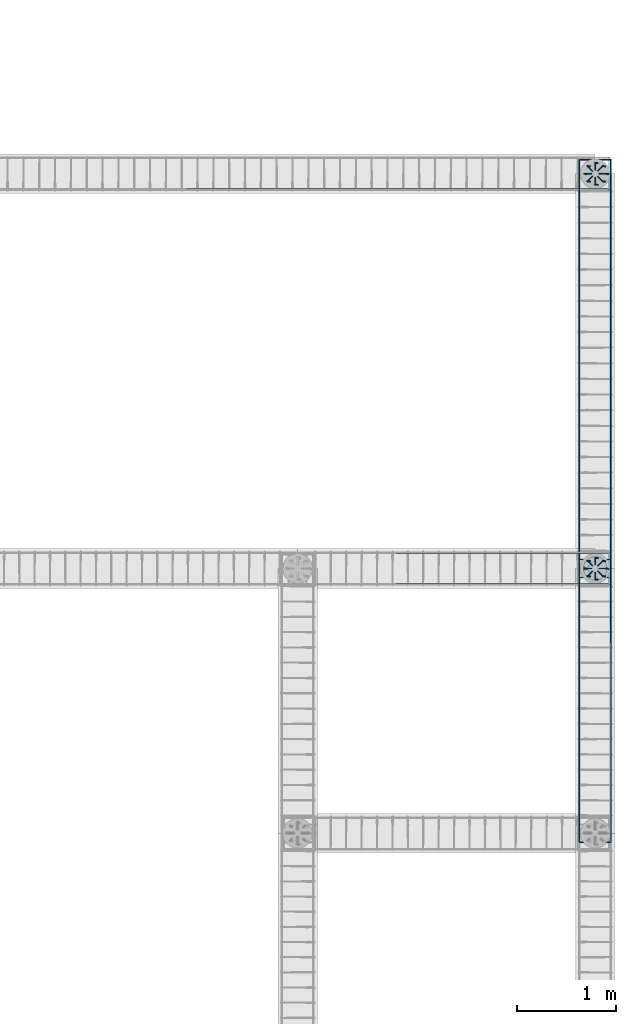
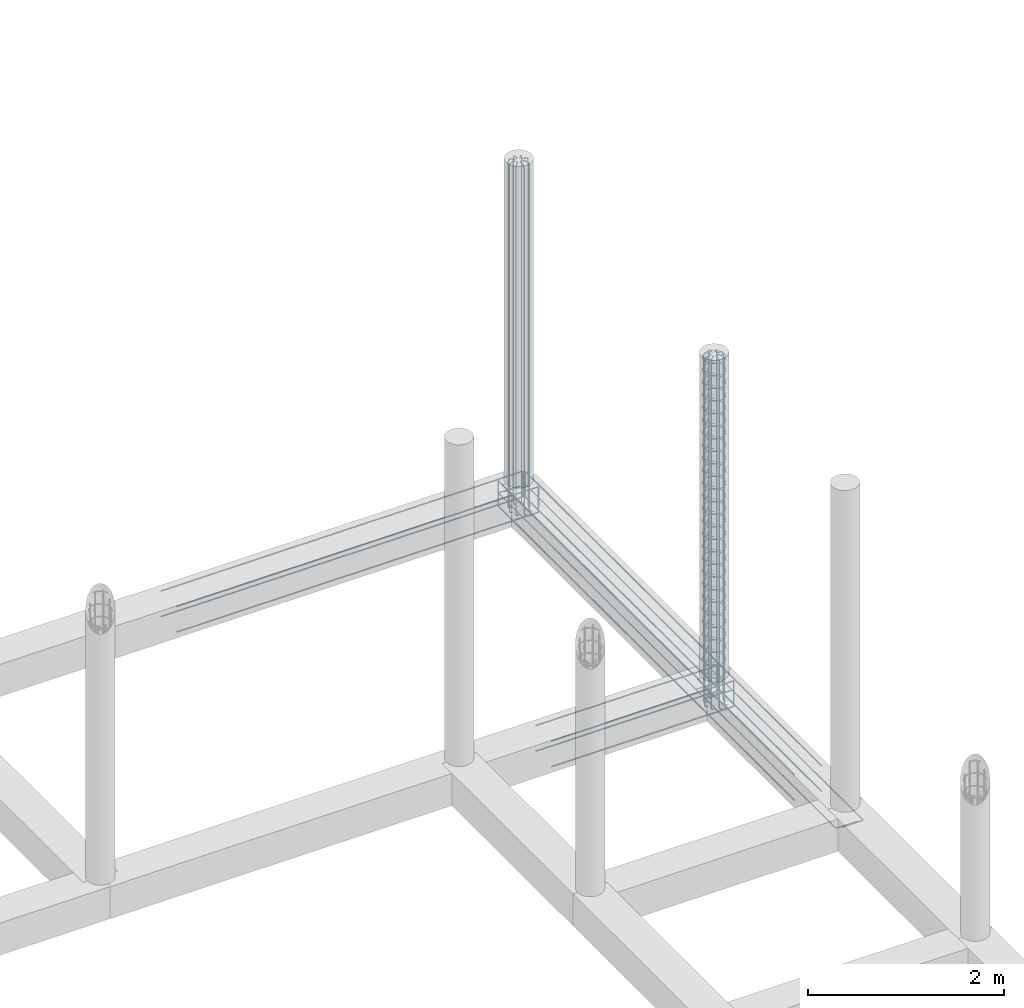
# One storey, part 14 of 20: 11 reinforcing bars.
"""IFC4 building model written with IfcOpenShell, lengths in metres."""

from ifc_helpers import new_model, entity, si_unit, origin_with_axes, place, context, project, spatial, source, transform, mapped, element, save


model = new_model("IFC4")

# Units and contexts
model_context = context("Model", 3, precision=1e-05, world=origin_with_axes())
ifc_project = project(units=[si_unit("LENGTHUNIT", "METRE"), si_unit("AREAUNIT", "SQUARE_METRE"), si_unit("VOLUMEUNIT", "CUBIC_METRE"), si_unit("MASSUNIT", "GRAM", prefix="KILO"), si_unit("TIMEUNIT", "SECOND"), si_unit("PLANEANGLEUNIT", "RADIAN"), si_unit("SOLIDANGLEUNIT", "STERADIAN"), si_unit("THERMODYNAMICTEMPERATUREUNIT", "DEGREE_CELSIUS")], contexts=[model_context])

# Site, building, storey
placement_1 = place(None, origin_with_axes())
site = spatial("IfcSite", under=ifc_project, at=placement_1, Name="Italia", CompositionType="ELEMENT")
building = spatial("IfcBuilding", under=site, at=placement_1, Name="Tettoia", CompositionType="ELEMENT")
storey = spatial("IfcBuildingStorey", under=building, at=placement_1, Name="Storey 0", CompositionType="ELEMENT", Elevation=0.0)

# Reinforcing bars
shared_shape_1 = source(origin_with_axes(), model_context, "Body", "AdvancedSweptSolid", [
    entity("IfcSweptDiskSolid", entity("IfcIndexedPolyCurve", entity("IfcCartesianPointList3D", [[11.211, 13.946, -0.375], [11.1971, 13.9479, -0.375], [11.191, 13.9487, -0.373761], [11.1857, 13.9494, -0.370231], [11.1822, 13.9498, -0.364949], [11.181, 13.95, -0.358718], [11.181, 13.95, 0.5725]]), [entity("IfcLineIndex", [1, 2]), entity("IfcLineIndex", [2, 3]), entity("IfcLineIndex", [3, 4]), entity("IfcLineIndex", [4, 5]), entity("IfcLineIndex", [5, 6]), entity("IfcLineIndex", [6, 7])], False), 0.007),
])
placement_2 = place(placement_1, origin_with_axes())
reinforcing_bar_1_placement = place(placement_2, origin_with_axes())
element("IfcReinforcingBar", 1, at=reinforcing_bar_1_placement, inside=storey, BarLength=0.97063, CrossSectionArea=0.00015394, NominalDiameter=0.014, context=model_context, shape_type="MappedRepresentation", body=[
    mapped(shared_shape_1, transform((0.186075, -0.0770731, 0.0), x_axis=(1.0, 0.0, 0.0), y_axis=(0.0, 1.0, 0.0), z_axis=(0.0, 0.0, 1.0), scale=1.0)),
    mapped(shared_shape_1, transform((0.217876, 0.000102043, 0.0), x_axis=(1.0, 0.0, 0.0), y_axis=(0.0, 1.0, 0.0), z_axis=(0.0, 0.0, 1.0), scale=1.0)),
    mapped(shared_shape_1, transform((0.0320501, -0.0771723, 0.0), x_axis=(1.0, 0.0, 0.0), y_axis=(0.0, 1.0, 0.0), z_axis=(0.0, 0.0, 1.0), scale=1.0)),
    mapped(shared_shape_1, transform((0.109, -0.108998, 0.0), x_axis=(1.0, 0.0, 0.0), y_axis=(0.0, 1.0, 0.0), z_axis=(0.0, 0.0, 1.0), scale=1.0)),
    mapped(shared_shape_1, transform((0.0319262, 0.077076, -1.53184e-05), x_axis=(1.0, 0.0, 0.0), y_axis=(0.0, 1.0, 0.0), z_axis=(0.0, 0.0, 1.0), scale=1.0)),
    mapped(shared_shape_1, transform((0.0, 0.0, 0.0), x_axis=(1.0, 0.0, 0.0), y_axis=(0.0, 1.0, 0.0), z_axis=(0.0, 0.0, 1.0), scale=1.0)),
    mapped(shared_shape_1, transform((0.186075, 0.077076, -1.73151e-05), x_axis=(1.0, 0.0, 0.0), y_axis=(0.0, 1.0, 0.0), z_axis=(0.0, 0.0, 1.0), scale=1.0)),
    mapped(shared_shape_1, transform((0.109124, 0.108902, -1.09673e-05), x_axis=(1.0, 0.0, 0.0), y_axis=(0.0, 1.0, 0.0), z_axis=(0.0, 0.0, 1.0), scale=1.0)),
])
shared_shape_2 = source(origin_with_axes(), model_context, "Body", "AdvancedSweptSolid", [
    entity("IfcSweptDiskSolid", entity("IfcIndexedPolyCurve", entity("IfcCartesianPointList3D", [[11.181, 13.95, 0.0], [11.181, 13.95, 3.94], [11.1837, 13.95, 3.95339], [11.1913, 13.95, 3.96475], [11.2026, 13.95, 3.97234], [11.216, 13.95, 3.975], [11.256, 13.95, 3.975]]), [entity("IfcLineIndex", [1, 2]), entity("IfcLineIndex", [2, 3]), entity("IfcLineIndex", [3, 4]), entity("IfcLineIndex", [4, 5]), entity("IfcLineIndex", [5, 6]), entity("IfcLineIndex", [6, 7])], False), 0.007),
])
reinforcing_bar_2_placement = place(placement_2, origin_with_axes())
element("IfcReinforcingBar", 2, at=reinforcing_bar_2_placement, inside=storey, BarLength=4.03463, CrossSectionArea=0.00015394, NominalDiameter=0.014, context=model_context, shape_type="MappedRepresentation", body=[
    mapped(shared_shape_2, transform((29.1374, 15.8309, 0.0), x_axis=(-0.707107, 0.707107, 0.0), y_axis=(-0.707107, -0.707107, 0.0), z_axis=(0.0, 0.0, 1.0), scale=1.0)),
    mapped(shared_shape_2, transform((22.58, 27.9, 0.0), x_axis=(-1.0, 0.0, 0.0), y_axis=(0.0, -1.0, 0.0), z_axis=(0.0, 0.0, 1.0), scale=1.0)),
    mapped(shared_shape_2, transform((13.1709, -3.89737, 0.0), x_axis=(0.707107, 0.707107, 0.0), y_axis=(-0.707107, 0.707107, 0.0), z_axis=(0.0, 0.0, 1.0), scale=1.0)),
    mapped(shared_shape_2, transform((25.24, 2.66, 0.0), x_axis=(0.0, 1.0, 0.0), y_axis=(-1.0, 0.0, 0.0), z_axis=(0.0, 0.0, 1.0), scale=1.0)),
    mapped(shared_shape_2, transform((-6.55737, 12.0691, 0.0), x_axis=(0.707107, -0.707107, 0.0), y_axis=(0.707107, 0.707107, 0.0), z_axis=(0.0, 0.0, 1.0), scale=1.0)),
    mapped(shared_shape_2, transform((0.0, 0.0, 0.0), x_axis=(1.0, 0.0, 0.0), y_axis=(0.0, 1.0, 0.0), z_axis=(0.0, 0.0, 1.0), scale=1.0)),
    mapped(shared_shape_2, transform((9.4091, 31.7974, 0.0), x_axis=(-0.707107, -0.707107, 0.0), y_axis=(0.707107, -0.707107, 0.0), z_axis=(0.0, 0.0, 1.0), scale=1.0)),
    mapped(shared_shape_2, transform((-2.66, 25.24, 0.0), x_axis=(0.0, -1.0, 0.0), y_axis=(1.0, 0.0, 0.0), z_axis=(0.0, 0.0, 1.0), scale=1.0)),
])
shared_shape_3 = source(origin_with_axes(), model_context, "Body", "AdvancedSweptSolid", [
    entity("IfcSweptDiskSolid", entity("IfcIndexedPolyCurve", entity("IfcCartesianPointList3D", [[11.211, 9.96605, -0.375], [11.1971, 9.96787, -0.375], [11.191, 9.96869, -0.373761], [11.1857, 9.96938, -0.370231], [11.1822, 9.96984, -0.364949], [11.181, 9.97, -0.358718], [11.181, 9.97, 0.5725]]), [entity("IfcLineIndex", [1, 2]), entity("IfcLineIndex", [2, 3]), entity("IfcLineIndex", [3, 4]), entity("IfcLineIndex", [4, 5]), entity("IfcLineIndex", [5, 6]), entity("IfcLineIndex", [6, 7])], False), 0.007),
])
reinforcing_bar_3_placement = place(placement_2, origin_with_axes())
element("IfcReinforcingBar", 3, at=reinforcing_bar_3_placement, inside=storey, BarLength=0.97063, CrossSectionArea=0.00015394, NominalDiameter=0.014, context=model_context, shape_type="MappedRepresentation", body=[
    mapped(shared_shape_3, transform((0.186075, -0.0770741, 0.0), x_axis=(1.0, 0.0, 0.0), y_axis=(0.0, 1.0, 0.0), z_axis=(0.0, 0.0, 1.0), scale=1.0)),
    mapped(shared_shape_3, transform((0.218, 0.0, 0.0), x_axis=(1.0, 0.0, 0.0), y_axis=(0.0, 1.0, 0.0), z_axis=(0.0, 0.0, 1.0), scale=1.0)),
    mapped(shared_shape_3, transform((0.0320158, -0.0771732, 0.0), x_axis=(1.0, 0.0, 0.0), y_axis=(0.0, 1.0, 0.0), z_axis=(0.0, 0.0, 1.0), scale=1.0)),
    mapped(shared_shape_3, transform((0.109, -0.108999, 0.0), x_axis=(1.0, 0.0, 0.0), y_axis=(0.0, 1.0, 0.0), z_axis=(0.0, 0.0, 1.0), scale=1.0)),
    mapped(shared_shape_3, transform((0.0319262, 0.077075, -1.13547e-05), x_axis=(1.0, 0.0, 0.0), y_axis=(0.0, 1.0, 0.0), z_axis=(0.0, 0.0, 1.0), scale=1.0)),
    mapped(shared_shape_3, transform((0.0, 0.0, 0.0), x_axis=(1.0, 0.0, 0.0), y_axis=(0.0, 1.0, 0.0), z_axis=(0.0, 0.0, 1.0), scale=1.0)),
    mapped(shared_shape_3, transform((0.186075, 0.077075, -1.28448e-05), x_axis=(1.0, 0.0, 0.0), y_axis=(0.0, 1.0, 0.0), z_axis=(0.0, 0.0, 1.0), scale=1.0)),
    mapped(shared_shape_3, transform((0.10909, 0.108901, 0.0), x_axis=(1.0, 0.0, 0.0), y_axis=(0.0, 1.0, 0.0), z_axis=(0.0, 0.0, 1.0), scale=1.0)),
])
shared_shape_4 = source(origin_with_axes(), model_context, "Body", "AdvancedSweptSolid", [
    entity("IfcSweptDiskSolid", entity("IfcIndexedPolyCurve", entity("IfcCartesianPointList3D", [[11.181, 9.97, 0.0], [11.181, 9.97, 3.94], [11.1837, 9.97, 3.95339], [11.1913, 9.97, 3.96475], [11.2026, 9.97, 3.97234], [11.216, 9.97, 3.975], [11.256, 9.97, 3.975]]), [entity("IfcLineIndex", [1, 2]), entity("IfcLineIndex", [2, 3]), entity("IfcLineIndex", [3, 4]), entity("IfcLineIndex", [4, 5]), entity("IfcLineIndex", [5, 6]), entity("IfcLineIndex", [6, 7])], False), 0.007),
])
reinforcing_bar_4_placement = place(placement_2, origin_with_axes())
element("IfcReinforcingBar", 4, at=reinforcing_bar_4_placement, inside=storey, BarLength=4.03463, CrossSectionArea=0.00015394, NominalDiameter=0.014, context=model_context, shape_type="MappedRepresentation", body=[
    mapped(shared_shape_4, transform((26.3231, 9.03662, 0.0), x_axis=(-0.707107, 0.707107, 0.0), y_axis=(-0.707107, -0.707107, 0.0), z_axis=(0.0, 0.0, 1.0), scale=1.0)),
    mapped(shared_shape_4, transform((22.58, 19.94, 0.0), x_axis=(-1.0, 0.0, 0.0), y_axis=(0.0, -1.0, 0.0), z_axis=(0.0, 0.0, 1.0), scale=1.0)),
    mapped(shared_shape_4, transform((10.3566, -5.06309, 0.0), x_axis=(0.707107, 0.707107, 0.0), y_axis=(-0.707107, 0.707107, 0.0), z_axis=(0.0, 0.0, 1.0), scale=1.0)),
    mapped(shared_shape_4, transform((21.26, -1.32, 0.0), x_axis=(0.0, 1.0, 0.0), y_axis=(-1.0, 0.0, 0.0), z_axis=(0.0, 0.0, 1.0), scale=1.0)),
    mapped(shared_shape_4, transform((-3.74309, 10.9034, 0.0), x_axis=(0.707107, -0.707107, 0.0), y_axis=(0.707107, 0.707107, 0.0), z_axis=(0.0, 0.0, 1.0), scale=1.0)),
    mapped(shared_shape_4, transform((0.0, 0.0, 0.0), x_axis=(1.0, 0.0, 0.0), y_axis=(0.0, 1.0, 0.0), z_axis=(0.0, 0.0, 1.0), scale=1.0)),
    mapped(shared_shape_4, transform((12.2234, 25.0031, 0.0), x_axis=(-0.707107, -0.707107, 0.0), y_axis=(0.707107, -0.707107, 0.0), z_axis=(0.0, 0.0, 1.0), scale=1.0)),
    mapped(shared_shape_4, transform((1.32, 21.26, 0.0), x_axis=(0.0, -1.0, 0.0), y_axis=(1.0, 0.0, 0.0), z_axis=(0.0, 0.0, 1.0), scale=1.0)),
])
shared_shape_5 = source(origin_with_axes(), model_context, "Body", "AdvancedSweptSolid", [
    entity("IfcSweptDiskSolid", entity("IfcIndexedPolyCurve", entity("IfcCartesianPointList3D", [[11.2591, 9.90856, 0.029], [11.1957, 9.98046, 0.029], [11.1888, 9.98383, 0.029], [11.182, 9.98426, 0.029], [11.1781, 9.98374, 0.029], [11.1747, 9.98178, 0.029], [11.1724, 9.97867, 0.029], [11.1714, 9.9749, 0.029], [11.1711, 9.97071, 0.029], [11.1711, 9.96929, 0.029], [11.1725, 9.95218, 0.029], [11.1727, 9.95063, 0.029], [11.1767, 9.93401, 0.029], [11.1772, 9.93252, 0.029], [11.1837, 9.91673, 0.029], [11.1844, 9.91533, 0.029], [11.1934, 9.90076, 0.029], [11.1943, 9.89949, 0.029], [11.2054, 9.88649, 0.029], [11.2065, 9.88538, 0.029], [11.2195, 9.87429, 0.029], [11.2208, 9.87336, 0.029], [11.2353, 9.86443, 0.029], [11.2367, 9.86372, 0.029], [11.2525, 9.85718, 0.029], [11.254, 9.8567, 0.029], [11.2706, 9.85271, 0.029], [11.2722, 9.85246, 0.029], [11.2892, 9.85112, 0.029], [11.2908, 9.85112, 0.029], [11.3078, 9.85246, 0.029], [11.3094, 9.85271, 0.029], [11.326, 9.8567, 0.029], [11.3275, 9.85718, 0.029], [11.3433, 9.86372, 0.029], [11.3447, 9.86443, 0.029], [11.3592, 9.87336, 0.029], [11.3605, 9.87429, 0.029], [11.3735, 9.88538, 0.029], [11.3746, 9.88649, 0.029], [11.3857, 9.89949, 0.029], [11.3866, 9.90076, 0.029], [11.3956, 9.91533, 0.029], [11.3963, 9.91673, 0.029], [11.4028, 9.93252, 0.029], [11.4033, 9.93401, 0.029], [11.4073, 9.95063, 0.029], [11.4075, 9.95218, 0.029], [11.4089, 9.96922, 0.029], [11.4089, 9.97079, 0.029], [11.4075, 9.98782, 0.029], [11.4073, 9.98937, 0.029], [11.4033, 10.006, 0.029], [11.4028, 10.0075, 0.029], [11.3963, 10.0233, 0.029], [11.3956, 10.0247, 0.029], [11.3866, 10.0392, 0.029], [11.3857, 10.0405, 0.029], [11.3746, 10.0535, 0.029], [11.3735, 10.0546, 0.029], [11.3605, 10.0657, 0.029], [11.3592, 10.0666, 0.029], [11.3447, 10.0756, 0.029], [11.3433, 10.0763, 0.029], [11.3275, 10.0828, 0.029], [11.326, 10.0833, 0.029], [11.3094, 10.0873, 0.029], [11.3078, 10.0875, 0.029], [11.2908, 10.0889, 0.029], [11.2892, 10.0889, 0.029], [11.2722, 10.0875, 0.029], [11.2706, 10.0873, 0.029], [11.254, 10.0833, 0.029], [11.2525, 10.0828, 0.029], [11.2367, 10.0763, 0.029], [11.2353, 10.0756, 0.029], [11.2208, 10.0666, 0.029], [11.2195, 10.0657, 0.029], [11.2065, 10.0546, 0.029], [11.2054, 10.0535, 0.029], [11.1943, 10.0405, 0.029], [11.1934, 10.0392, 0.029], [11.1844, 10.0247, 0.029], [11.1837, 10.0233, 0.029], [11.1772, 10.0075, 0.029], [11.1767, 10.006, 0.029], [11.1727, 9.98937, 0.029], [11.1725, 9.98782, 0.029], [11.1711, 9.97071, 0.029], [11.1711, 9.96929, 0.029], [11.1714, 9.9651, 0.029], [11.1724, 9.96133, 0.029], [11.1747, 9.95823, 0.029], [11.1781, 9.95626, 0.029], [11.182, 9.95574, 0.029], [11.1888, 9.95617, 0.029], [11.1957, 9.95954, 0.029], [11.2591, 10.0314, 0.029]]), [entity("IfcLineIndex", [1, 2]), entity("IfcLineIndex", [2, 3]), entity("IfcLineIndex", [3, 4]), entity("IfcLineIndex", [4, 5]), entity("IfcLineIndex", [5, 6]), entity("IfcLineIndex", [6, 7]), entity("IfcLineIndex", [7, 8]), entity("IfcLineIndex", [8, 9]), entity("IfcLineIndex", [9, 10]), entity("IfcLineIndex", [10, 11]), entity("IfcLineIndex", [11, 12]), entity("IfcLineIndex", [12, 13]), entity("IfcLineIndex", [13, 14]), entity("IfcLineIndex", [14, 15]), entity("IfcLineIndex", [15, 16]), entity("IfcLineIndex", [16, 17]), entity("IfcLineIndex", [17, 18]), entity("IfcLineIndex", [18, 19]), entity("IfcLineIndex", [19, 20]), entity("IfcLineIndex", [20, 21]), entity("IfcLineIndex", [21, 22]), entity("IfcLineIndex", [22, 23]), entity("IfcLineIndex", [23, 24]), entity("IfcLineIndex", [24, 25]), entity("IfcLineIndex", [25, 26]), entity("IfcLineIndex", [26, 27]), entity("IfcLineIndex", [27, 28]), entity("IfcLineIndex", [28, 29]), entity("IfcLineIndex", [29, 30]), entity("IfcLineIndex", [30, 31]), entity("IfcLineIndex", [31, 32]), entity("IfcLineIndex", [32, 33]), entity("IfcLineIndex", [33, 34]), entity("IfcLineIndex", [34, 35]), entity("IfcLineIndex", [35, 36]), entity("IfcLineIndex", [36, 37]), entity("IfcLineIndex", [37, 38]), entity("IfcLineIndex", [38, 39]), entity("IfcLineIndex", [39, 40]), entity("IfcLineIndex", [40, 41]), entity("IfcLineIndex", [41, 42]), entity("IfcLineIndex", [42, 43]), entity("IfcLineIndex", [43, 44]), entity("IfcLineIndex", [44, 45]), entity("IfcLineIndex", [45, 46]), entity("IfcLineIndex", [46, 47]), entity("IfcLineIndex", [47, 48]), entity("IfcLineIndex", [48, 49]), entity("IfcLineIndex", [49, 50]), entity("IfcLineIndex", [50, 51]), entity("IfcLineIndex", [51, 52]), entity("IfcLineIndex", [52, 53]), entity("IfcLineIndex", [53, 54]), entity("IfcLineIndex", [54, 55]), entity("IfcLineIndex", [55, 56]), entity("IfcLineIndex", [56, 57]), entity("IfcLineIndex", [57, 58]), entity("IfcLineIndex", [58, 59]), entity("IfcLineIndex", [59, 60]), entity("IfcLineIndex", [60, 61]), entity("IfcLineIndex", [61, 62]), entity("IfcLineIndex", [62, 63]), entity("IfcLineIndex", [63, 64]), entity("IfcLineIndex", [64, 65]), entity("IfcLineIndex", [65, 66]), entity("IfcLineIndex", [66, 67]), entity("IfcLineIndex", [67, 68]), entity("IfcLineIndex", [68, 69]), entity("IfcLineIndex", [69, 70]), entity("IfcLineIndex", [70, 71]), entity("IfcLineIndex", [71, 72]), entity("IfcLineIndex", [72, 73]), entity("IfcLineIndex", [73, 74]), entity("IfcLineIndex", [74, 75]), entity("IfcLineIndex", [75, 76]), entity("IfcLineIndex", [76, 77]), entity("IfcLineIndex", [77, 78]), entity("IfcLineIndex", [78, 79]), entity("IfcLineIndex", [79, 80]), entity("IfcLineIndex", [80, 81]), entity("IfcLineIndex", [81, 82]), entity("IfcLineIndex", [82, 83]), entity("IfcLineIndex", [83, 84]), entity("IfcLineIndex", [84, 85]), entity("IfcLineIndex", [85, 86]), entity("IfcLineIndex", [86, 87]), entity("IfcLineIndex", [87, 88]), entity("IfcLineIndex", [88, 89]), entity("IfcLineIndex", [89, 90]), entity("IfcLineIndex", [90, 91]), entity("IfcLineIndex", [91, 92]), entity("IfcLineIndex", [92, 93]), entity("IfcLineIndex", [93, 94]), entity("IfcLineIndex", [94, 95]), entity("IfcLineIndex", [95, 96]), entity("IfcLineIndex", [96, 97]), entity("IfcLineIndex", [97, 98])], False), 0.004),
])
reinforcing_bar_5_placement = place(placement_2, origin_with_axes())
element("IfcReinforcingBar", 5, at=reinforcing_bar_5_placement, inside=storey, BarLength=1.00814, CrossSectionArea=5.0265e-05, NominalDiameter=0.008, context=model_context, shape_type="MappedRepresentation", body=[
    mapped(shared_shape_5, transform((0.0, 0.0, 1.8768), x_axis=(1.0, 0.0, 0.0), y_axis=(0.0, 1.0, 0.0), z_axis=(0.0, 0.0, 1.0), scale=1.0)),
    mapped(shared_shape_5, transform((0.0, 0.0, 1.7204), x_axis=(1.0, 0.0, 0.0), y_axis=(0.0, 1.0, 0.0), z_axis=(0.0, 0.0, 1.0), scale=1.0)),
    mapped(shared_shape_5, transform((0.0, 0.0, 1.0948), x_axis=(1.0, 0.0, 0.0), y_axis=(0.0, 1.0, 0.0), z_axis=(0.0, 0.0, 1.0), scale=1.0)),
    mapped(shared_shape_5, transform((0.0, 0.0, 1.4076), x_axis=(1.0, 0.0, 0.0), y_axis=(0.0, 1.0, 0.0), z_axis=(0.0, 0.0, 1.0), scale=1.0)),
    mapped(shared_shape_5, transform((0.0, 0.0, 1.2512), x_axis=(1.0, 0.0, 0.0), y_axis=(0.0, 1.0, 0.0), z_axis=(0.0, 0.0, 1.0), scale=1.0)),
    mapped(shared_shape_5, transform((0.0, 0.0, 1.564), x_axis=(1.0, 0.0, 0.0), y_axis=(0.0, 1.0, 0.0), z_axis=(0.0, 0.0, 1.0), scale=1.0)),
    mapped(shared_shape_5, transform((0.0, 0.0, 0.9384), x_axis=(1.0, 0.0, 0.0), y_axis=(0.0, 1.0, 0.0), z_axis=(0.0, 0.0, 1.0), scale=1.0)),
    mapped(shared_shape_5, transform((0.0, 0.0, 0.782), x_axis=(1.0, 0.0, 0.0), y_axis=(0.0, 1.0, 0.0), z_axis=(0.0, 0.0, 1.0), scale=1.0)),
    mapped(shared_shape_5, transform((0.0, 0.0, 0.1564), x_axis=(1.0, 0.0, 0.0), y_axis=(0.0, 1.0, 0.0), z_axis=(0.0, 0.0, 1.0), scale=1.0)),
    mapped(shared_shape_5, transform((0.0, 0.0, 0.4692), x_axis=(1.0, 0.0, 0.0), y_axis=(0.0, 1.0, 0.0), z_axis=(0.0, 0.0, 1.0), scale=1.0)),
    mapped(shared_shape_5, transform((0.0, 0.0, 0.3128), x_axis=(1.0, 0.0, 0.0), y_axis=(0.0, 1.0, 0.0), z_axis=(0.0, 0.0, 1.0), scale=1.0)),
    mapped(shared_shape_5, transform((0.0, 0.0, 0.6256), x_axis=(1.0, 0.0, 0.0), y_axis=(0.0, 1.0, 0.0), z_axis=(0.0, 0.0, 1.0), scale=1.0)),
    mapped(shared_shape_5, transform((0.0, 0.0, 0.0), x_axis=(1.0, 0.0, 0.0), y_axis=(0.0, 1.0, 0.0), z_axis=(0.0, 0.0, 1.0), scale=1.0)),
    mapped(shared_shape_5, transform((0.0, 0.0, 3.91), x_axis=(1.0, 0.0, 0.0), y_axis=(0.0, 1.0, 0.0), z_axis=(0.0, 0.0, 1.0), scale=1.0)),
    mapped(shared_shape_5, transform((0.0, 0.0, 3.2844), x_axis=(1.0, 0.0, 0.0), y_axis=(0.0, 1.0, 0.0), z_axis=(0.0, 0.0, 1.0), scale=1.0)),
    mapped(shared_shape_5, transform((0.0, 0.0, 3.5972), x_axis=(1.0, 0.0, 0.0), y_axis=(0.0, 1.0, 0.0), z_axis=(0.0, 0.0, 1.0), scale=1.0)),
    mapped(shared_shape_5, transform((0.0, 0.0, 3.4408), x_axis=(1.0, 0.0, 0.0), y_axis=(0.0, 1.0, 0.0), z_axis=(0.0, 0.0, 1.0), scale=1.0)),
    mapped(shared_shape_5, transform((0.0, 0.0, 3.7536), x_axis=(1.0, 0.0, 0.0), y_axis=(0.0, 1.0, 0.0), z_axis=(0.0, 0.0, 1.0), scale=1.0)),
    mapped(shared_shape_5, transform((0.0, 0.0, 3.128), x_axis=(1.0, 0.0, 0.0), y_axis=(0.0, 1.0, 0.0), z_axis=(0.0, 0.0, 1.0), scale=1.0)),
    mapped(shared_shape_5, transform((0.0, 0.0, 2.9716), x_axis=(1.0, 0.0, 0.0), y_axis=(0.0, 1.0, 0.0), z_axis=(0.0, 0.0, 1.0), scale=1.0)),
    mapped(shared_shape_5, transform((0.0, 0.0, 2.346), x_axis=(1.0, 0.0, 0.0), y_axis=(0.0, 1.0, 0.0), z_axis=(0.0, 0.0, 1.0), scale=1.0)),
    mapped(shared_shape_5, transform((0.0, 0.0, 2.6588), x_axis=(1.0, 0.0, 0.0), y_axis=(0.0, 1.0, 0.0), z_axis=(0.0, 0.0, 1.0), scale=1.0)),
    mapped(shared_shape_5, transform((0.0, 0.0, 2.5024), x_axis=(1.0, 0.0, 0.0), y_axis=(0.0, 1.0, 0.0), z_axis=(0.0, 0.0, 1.0), scale=1.0)),
    mapped(shared_shape_5, transform((0.0, 0.0, 2.8152), x_axis=(1.0, 0.0, 0.0), y_axis=(0.0, 1.0, 0.0), z_axis=(0.0, 0.0, 1.0), scale=1.0)),
    mapped(shared_shape_5, transform((0.0, 0.0, 2.1896), x_axis=(1.0, 0.0, 0.0), y_axis=(0.0, 1.0, 0.0), z_axis=(0.0, 0.0, 1.0), scale=1.0)),
    mapped(shared_shape_5, transform((0.0, 0.0, 2.0332), x_axis=(1.0, 0.0, 0.0), y_axis=(0.0, 1.0, 0.0), z_axis=(0.0, 0.0, 1.0), scale=1.0)),
])
shared_shape_6 = source(origin_with_axes(), model_context, "Body", "AdvancedSweptSolid", [
    entity("IfcSweptDiskSolid", entity("IfcIndexedPolyCurve", entity("IfcCartesianPointList3D", [[9.28227, 9.811, -0.359], [9.865, 9.811, -0.359], [11.29, 9.811, -0.359], [11.42, 9.811, -0.359], [11.4238, 9.811, -0.358239], [11.4271, 9.811, -0.356071], [11.4292, 9.811, -0.352827], [11.43, 9.811, -0.349], [11.43, 9.811, -0.109]]), [entity("IfcLineIndex", [1, 2]), entity("IfcLineIndex", [2, 3]), entity("IfcLineIndex", [3, 4]), entity("IfcLineIndex", [4, 5]), entity("IfcLineIndex", [5, 6]), entity("IfcLineIndex", [6, 7]), entity("IfcLineIndex", [7, 8]), entity("IfcLineIndex", [8, 9])], False), 0.008),
])
reinforcing_bar_6_placement = place(placement_2, origin_with_axes())
element("IfcReinforcingBar", 6, at=reinforcing_bar_6_placement, inside=storey, BarLength=2.39333, CrossSectionArea=0.00020106, NominalDiameter=0.016, context=model_context, shape_type="MappedRepresentation", body=[
    mapped(shared_shape_6, transform((0.0, 0.318001, 0.0), x_axis=(1.0, 0.0, 0.0), y_axis=(0.0, 1.0, 0.0), z_axis=(0.0, 0.0, 1.0), scale=1.0)),
    mapped(shared_shape_6, transform((0.0, 0.0, 0.0), x_axis=(1.0, 0.0, 0.0), y_axis=(0.0, 1.0, 0.0), z_axis=(0.0, 0.0, 1.0), scale=1.0)),
    mapped(shared_shape_6, transform((0.0, 19.94, -0.4), x_axis=(1.0, 0.0, 0.0), y_axis=(0.0, -1.0, 0.0), z_axis=(0.0, 0.0, -1.0), scale=1.0)),
    mapped(shared_shape_6, transform((0.0, 19.622, -0.4), x_axis=(1.0, 0.0, 0.0), y_axis=(0.0, -1.0, 0.0), z_axis=(0.0, 0.0, -1.0), scale=1.0)),
])
shared_shape_7 = source(origin_with_axes(), model_context, "Body", "AdvancedSweptSolid", [
    entity("IfcSweptDiskSolid", entity("IfcIndexedPolyCurve", entity("IfcCartesianPointList3D", [[7.17227, 13.791, -0.359], [7.755, 13.791, -0.359], [11.29, 13.791, -0.359], [11.42, 13.791, -0.359], [11.4238, 13.791, -0.358239], [11.4271, 13.791, -0.356071], [11.4292, 13.791, -0.352827], [11.43, 13.791, -0.349], [11.43, 13.791, -0.109]]), [entity("IfcLineIndex", [1, 2]), entity("IfcLineIndex", [2, 3]), entity("IfcLineIndex", [3, 4]), entity("IfcLineIndex", [4, 5]), entity("IfcLineIndex", [5, 6]), entity("IfcLineIndex", [6, 7]), entity("IfcLineIndex", [7, 8]), entity("IfcLineIndex", [8, 9])], False), 0.008),
])
reinforcing_bar_7_placement = place(placement_2, origin_with_axes())
element("IfcReinforcingBar", 7, at=reinforcing_bar_7_placement, inside=storey, BarLength=4.50333, CrossSectionArea=0.00020106, NominalDiameter=0.016, context=model_context, shape_type="MappedRepresentation", body=[
    mapped(shared_shape_7, transform((0.0, 0.318, 0.0), x_axis=(1.0, 0.0, 0.0), y_axis=(0.0, 1.0, 0.0), z_axis=(0.0, 0.0, 1.0), scale=1.0)),
    mapped(shared_shape_7, transform((0.0, 0.0, 0.0), x_axis=(1.0, 0.0, 0.0), y_axis=(0.0, 1.0, 0.0), z_axis=(0.0, 0.0, 1.0), scale=1.0)),
    mapped(shared_shape_7, transform((0.0, 27.9, -0.4), x_axis=(1.0, 0.0, 0.0), y_axis=(0.0, -1.0, 0.0), z_axis=(0.0, 0.0, -1.0), scale=1.0)),
    mapped(shared_shape_7, transform((0.0, 27.582, -0.4), x_axis=(1.0, 0.0, 0.0), y_axis=(0.0, -1.0, 0.0), z_axis=(0.0, 0.0, -1.0), scale=1.0)),
])
shared_shape_8 = source(origin_with_axes(), model_context, "Body", "AdvancedSweptSolid", [
    entity("IfcSweptDiskSolid", entity("IfcIndexedPolyCurve", entity("IfcCartesianPointList3D", [[11.379, 7.21, -0.194], [11.139, 7.21, -0.194], [11.1352, 7.21076, -0.194], [11.1319, 7.21293, -0.194], [11.1298, 7.21617, -0.194], [11.129, 7.22, -0.194], [11.129, 10.05, -0.194], [11.1298, 10.0538, -0.194], [11.1319, 10.0571, -0.194], [11.1352, 10.0592, -0.194], [11.139, 10.06, -0.194], [11.379, 10.06, -0.194]]), [entity("IfcLineIndex", [1, 2]), entity("IfcLineIndex", [2, 3]), entity("IfcLineIndex", [3, 4]), entity("IfcLineIndex", [4, 5]), entity("IfcLineIndex", [5, 6]), entity("IfcLineIndex", [6, 7]), entity("IfcLineIndex", [7, 8]), entity("IfcLineIndex", [8, 9]), entity("IfcLineIndex", [9, 10]), entity("IfcLineIndex", [10, 11]), entity("IfcLineIndex", [11, 12])], False), 0.006),
])
reinforcing_bar_8_placement = place(placement_2, origin_with_axes())
element("IfcReinforcingBar", 8, at=reinforcing_bar_8_placement, inside=storey, BarLength=3.34121, CrossSectionArea=0.0001131, NominalDiameter=0.012, context=model_context, shape_type="MappedRepresentation", body=[
    mapped(shared_shape_8, transform((22.58, 0.0, -0.4), x_axis=(-1.0, 0.0, 0.0), y_axis=(0.0, 1.0, 0.0), z_axis=(0.0, 0.0, -1.0), scale=1.0)),
    mapped(shared_shape_8, transform((0.0, 0.0, 0.0), x_axis=(1.0, 0.0, 0.0), y_axis=(0.0, 1.0, 0.0), z_axis=(0.0, 0.0, 1.0), scale=1.0)),
])
shared_shape_9 = source(origin_with_axes(), model_context, "Body", "AdvancedSweptSolid", [
    entity("IfcSweptDiskSolid", entity("IfcIndexedPolyCurve", entity("IfcCartesianPointList3D", [[11.379, 9.88, -0.194], [11.139, 9.88, -0.194], [11.1352, 9.88076, -0.194], [11.1319, 9.88293, -0.194], [11.1298, 9.88617, -0.194], [11.129, 9.89, -0.194], [11.129, 14.08, -0.194], [11.1298, 14.0838, -0.194], [11.1319, 14.0871, -0.194], [11.1352, 14.0892, -0.194], [11.139, 14.09, -0.194], [11.379, 14.09, -0.194]]), [entity("IfcLineIndex", [1, 2]), entity("IfcLineIndex", [2, 3]), entity("IfcLineIndex", [3, 4]), entity("IfcLineIndex", [4, 5]), entity("IfcLineIndex", [5, 6]), entity("IfcLineIndex", [6, 7]), entity("IfcLineIndex", [7, 8]), entity("IfcLineIndex", [8, 9]), entity("IfcLineIndex", [9, 10]), entity("IfcLineIndex", [10, 11]), entity("IfcLineIndex", [11, 12])], False), 0.006),
])
reinforcing_bar_9_placement = place(placement_2, origin_with_axes())
element("IfcReinforcingBar", 9, at=reinforcing_bar_9_placement, inside=storey, BarLength=4.70121, CrossSectionArea=0.0001131, NominalDiameter=0.012, context=model_context, shape_type="MappedRepresentation", body=[
    mapped(shared_shape_9, transform((22.58, 0.0, -0.4), x_axis=(-1.0, 0.0, 0.0), y_axis=(0.0, 1.0, 0.0), z_axis=(0.0, 0.0, -1.0), scale=1.0)),
    mapped(shared_shape_9, transform((0.0, 0.0, 0.0), x_axis=(1.0, 0.0, 0.0), y_axis=(0.0, 1.0, 0.0), z_axis=(0.0, 0.0, 1.0), scale=1.0)),
])
shared_shape_10 = source(origin_with_axes(), model_context, "Body", "AdvancedSweptSolid", [
    entity("IfcSweptDiskSolid", entity("IfcIndexedPolyCurve", entity("IfcCartesianPointList3D", [[11.449, 8.05227, -0.359], [11.449, 8.635, -0.359], [11.449, 12.035, -0.359], [11.449, 12.6177, -0.359]]), [entity("IfcLineIndex", [1, 2]), entity("IfcLineIndex", [2, 3]), entity("IfcLineIndex", [3, 4])], False), 0.008),
])
reinforcing_bar_10_placement = place(placement_2, origin_with_axes())
element("IfcReinforcingBar", 10, at=reinforcing_bar_10_placement, inside=storey, BarLength=4.56545, CrossSectionArea=0.00020106, NominalDiameter=0.016, context=model_context, shape_type="MappedRepresentation", body=[
    mapped(shared_shape_10, transform((-0.318, 0.0, 0.0), x_axis=(1.0, 0.0, 0.0), y_axis=(0.0, 1.0, 0.0), z_axis=(0.0, 0.0, 1.0), scale=1.0)),
    mapped(shared_shape_10, transform((0.0, 0.0, 0.0), x_axis=(1.0, 0.0, 0.0), y_axis=(0.0, 1.0, 0.0), z_axis=(0.0, 0.0, 1.0), scale=1.0)),
    mapped(shared_shape_10, transform((-0.318, 0.0, 0.318), x_axis=(1.0, 0.0, 0.0), y_axis=(0.0, 1.0, 0.0), z_axis=(0.0, 0.0, 1.0), scale=1.0)),
    mapped(shared_shape_10, transform((0.0, 0.0, 0.318), x_axis=(1.0, 0.0, 0.0), y_axis=(0.0, 1.0, 0.0), z_axis=(0.0, 0.0, 1.0), scale=1.0)),
])
shared_shape_11 = source(origin_with_axes(), model_context, "Body", "AdvancedSweptSolid", [
    entity("IfcSweptDiskSolid", entity("IfcIndexedPolyCurve", entity("IfcCartesianPointList3D", [[11.449, 11.4523, -0.359], [11.449, 12.035, -0.359], [11.449, 13.95, -0.359], [11.449, 14.08, -0.359], [11.449, 14.0838, -0.358239], [11.449, 14.0871, -0.356071], [11.449, 14.0892, -0.352827], [11.449, 14.09, -0.349], [11.449, 14.09, -0.109]]), [entity("IfcLineIndex", [1, 2]), entity("IfcLineIndex", [2, 3]), entity("IfcLineIndex", [3, 4]), entity("IfcLineIndex", [4, 5]), entity("IfcLineIndex", [5, 6]), entity("IfcLineIndex", [6, 7]), entity("IfcLineIndex", [7, 8]), entity("IfcLineIndex", [8, 9])], False), 0.008),
])
reinforcing_bar_11_placement = place(placement_2, origin_with_axes())
element("IfcReinforcingBar", 11, at=reinforcing_bar_11_placement, inside=storey, BarLength=2.88333, CrossSectionArea=0.00020106, NominalDiameter=0.016, context=model_context, shape_type="MappedRepresentation", body=[
    mapped(shared_shape_11, transform((-0.317999, 0.0, 0.0), x_axis=(1.0, 0.0, 0.0), y_axis=(0.0, 1.0, 0.0), z_axis=(0.0, 0.0, 1.0), scale=1.0)),
    mapped(shared_shape_11, transform((0.0, 0.0, 0.0), x_axis=(1.0, 0.0, 0.0), y_axis=(0.0, 1.0, 0.0), z_axis=(0.0, 0.0, 1.0), scale=1.0)),
    mapped(shared_shape_11, transform((22.58, 0.0, -0.4), x_axis=(-1.0, 0.0, 0.0), y_axis=(0.0, 1.0, 0.0), z_axis=(0.0, 0.0, -1.0), scale=1.0)),
    mapped(shared_shape_11, transform((22.898, 0.0, -0.4), x_axis=(-1.0, 0.0, 0.0), y_axis=(0.0, 1.0, 0.0), z_axis=(0.0, 0.0, -1.0), scale=1.0)),
])

save(model, "model.ifc")
